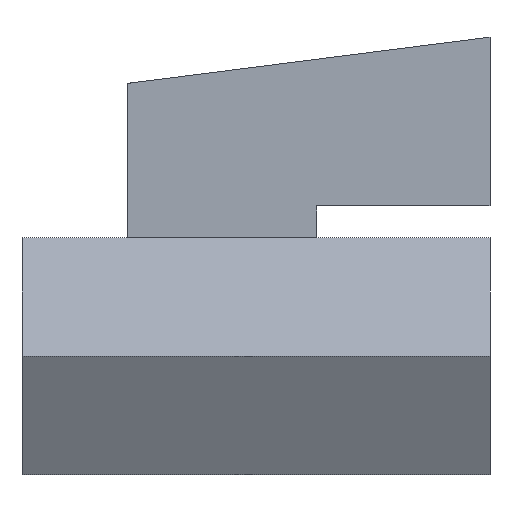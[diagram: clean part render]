
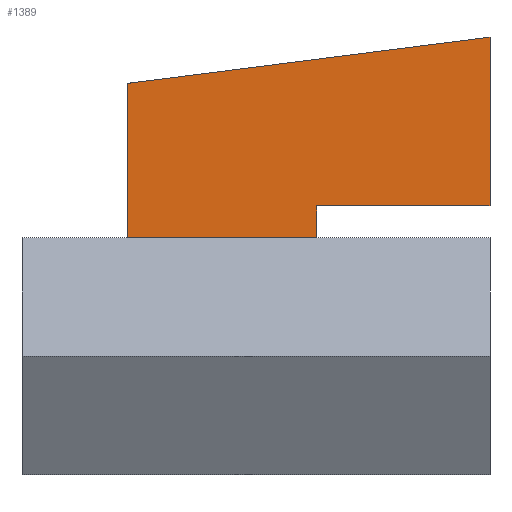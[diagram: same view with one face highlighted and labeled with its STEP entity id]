
A CAD part, front view. The second image highlights one B-rep face of the part: STEP entity #1389.
In plain terms, the highlighted planar face has unit normal (0, -1, 0).
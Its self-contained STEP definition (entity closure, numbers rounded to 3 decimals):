
#32 = PLANE('',#33);
#33 = AXIS2_PLACEMENT_3D('',#34,#35,#36);
#34 = CARTESIAN_POINT('',(0.,0.,0.39));
#35 = DIRECTION('',(0.,0.,1.));
#36 = DIRECTION('',(0.,1.,0.));
#143 = VERTEX_POINT('',#144);
#144 = CARTESIAN_POINT('',(-1.192,-0.153,0.39));
#158 = PLANE('',#159);
#159 = AXIS2_PLACEMENT_3D('',#160,#161,#162);
#160 = CARTESIAN_POINT('',(-1.192,0.153,0.644));
#161 = DIRECTION('',(-1.,0.,0.));
#162 = DIRECTION('',(0.,0.,-1.));
#199 = VERTEX_POINT('',#200);
#200 = CARTESIAN_POINT('',(-0.57,-0.153,0.39));
#214 = PLANE('',#215);
#215 = AXIS2_PLACEMENT_3D('',#216,#217,#218);
#216 = CARTESIAN_POINT('',(-0.57,0.153,0.443));
#217 = DIRECTION('',(1.,0.,0.));
#218 = DIRECTION('',(0.,0.,1.));
#226 = EDGE_CURVE('',#199,#143,#227,.T.);
#227 = SURFACE_CURVE('',#228,(#232,#239),.PCURVE_S1.);
#228 = LINE('',#229,#230);
#229 = CARTESIAN_POINT('',(-0.57,-0.153,0.39));
#230 = VECTOR('',#231,1.);
#231 = DIRECTION('',(-1.,0.,0.));
#232 = PCURVE('',#32,#233);
#233 = DEFINITIONAL_REPRESENTATION('',(#234),#238);
#234 = LINE('',#235,#236);
#235 = CARTESIAN_POINT('',(-0.153,0.57));
#236 = VECTOR('',#237,1.);
#237 = DIRECTION('',(0.,1.));
#238 = ( GEOMETRIC_REPRESENTATION_CONTEXT(2) 
PARAMETRIC_REPRESENTATION_CONTEXT() REPRESENTATION_CONTEXT('2D SPACE',''
  ) );
#239 = PCURVE('',#240,#245);
#240 = PLANE('',#241);
#241 = AXIS2_PLACEMENT_3D('',#242,#243,#244);
#242 = CARTESIAN_POINT('',(-0.587,-0.153,0.701));
#243 = DIRECTION('',(0.,1.,0.));
#244 = DIRECTION('',(0.,-0.,1.));
#245 = DEFINITIONAL_REPRESENTATION('',(#246),#250);
#246 = LINE('',#247,#248);
#247 = CARTESIAN_POINT('',(-0.311,0.017));
#248 = VECTOR('',#249,1.);
#249 = DIRECTION('',(0.,-1.));
#250 = ( GEOMETRIC_REPRESENTATION_CONTEXT(2) 
PARAMETRIC_REPRESENTATION_CONTEXT() REPRESENTATION_CONTEXT('2D SPACE',''
  ) );
#938 = PLANE('',#939);
#939 = AXIS2_PLACEMENT_3D('',#940,#941,#942);
#940 = CARTESIAN_POINT('',(-0.596,0.153,0.974));
#941 = DIRECTION('',(-0.126,0.,0.992));
#942 = DIRECTION('',(-0.992,0.,-0.126));
#1048 = EDGE_CURVE('',#1049,#1051,#1053,.T.);
#1049 = VERTEX_POINT('',#1050);
#1050 = CARTESIAN_POINT('',(0.,-0.153,0.495));
#1051 = VERTEX_POINT('',#1052);
#1052 = CARTESIAN_POINT('',(-0.57,-0.153,0.495));
#1053 = SURFACE_CURVE('',#1054,(#1058,#1070),.PCURVE_S1.);
#1054 = LINE('',#1055,#1056);
#1055 = CARTESIAN_POINT('',(0.,-0.153,0.495));
#1056 = VECTOR('',#1057,1.);
#1057 = DIRECTION('',(-1.,0.,0.));
#1058 = PCURVE('',#1059,#1064);
#1059 = PLANE('',#1060);
#1060 = AXIS2_PLACEMENT_3D('',#1061,#1062,#1063);
#1061 = CARTESIAN_POINT('',(-0.285,0.153,0.495));
#1062 = DIRECTION('',(0.,0.,-1.));
#1063 = DIRECTION('',(1.,0.,0.));
#1064 = DEFINITIONAL_REPRESENTATION('',(#1065),#1069);
#1065 = LINE('',#1066,#1067);
#1066 = CARTESIAN_POINT('',(0.285,0.305));
#1067 = VECTOR('',#1068,1.);
#1068 = DIRECTION('',(-1.,0.));
#1069 = ( GEOMETRIC_REPRESENTATION_CONTEXT(2) 
PARAMETRIC_REPRESENTATION_CONTEXT() REPRESENTATION_CONTEXT('2D SPACE',''
  ) );
#1070 = PCURVE('',#240,#1071);
#1071 = DEFINITIONAL_REPRESENTATION('',(#1072),#1076);
#1072 = LINE('',#1073,#1074);
#1073 = CARTESIAN_POINT('',(-0.206,0.587));
#1074 = VECTOR('',#1075,1.);
#1075 = DIRECTION('',(0.,-1.));
#1076 = ( GEOMETRIC_REPRESENTATION_CONTEXT(2) 
PARAMETRIC_REPRESENTATION_CONTEXT() REPRESENTATION_CONTEXT('2D SPACE',''
  ) );
#1138 = PLANE('',#1139);
#1139 = AXIS2_PLACEMENT_3D('',#1140,#1141,#1142);
#1140 = CARTESIAN_POINT('',(0.,0.153,0.773));
#1141 = DIRECTION('',(1.,0.,0.));
#1142 = DIRECTION('',(0.,0.,1.));
#1153 = EDGE_CURVE('',#1051,#199,#1154,.T.);
#1154 = SURFACE_CURVE('',#1155,(#1159,#1166),.PCURVE_S1.);
#1155 = LINE('',#1156,#1157);
#1156 = CARTESIAN_POINT('',(-0.57,-0.153,0.495));
#1157 = VECTOR('',#1158,1.);
#1158 = DIRECTION('',(0.,0.,-1.));
#1159 = PCURVE('',#214,#1160);
#1160 = DEFINITIONAL_REPRESENTATION('',(#1161),#1165);
#1161 = LINE('',#1162,#1163);
#1162 = CARTESIAN_POINT('',(0.053,0.305));
#1163 = VECTOR('',#1164,1.);
#1164 = DIRECTION('',(-1.,0.));
#1165 = ( GEOMETRIC_REPRESENTATION_CONTEXT(2) 
PARAMETRIC_REPRESENTATION_CONTEXT() REPRESENTATION_CONTEXT('2D SPACE',''
  ) );
#1166 = PCURVE('',#240,#1167);
#1167 = DEFINITIONAL_REPRESENTATION('',(#1168),#1172);
#1168 = LINE('',#1169,#1170);
#1169 = CARTESIAN_POINT('',(-0.206,0.017));
#1170 = VECTOR('',#1171,1.);
#1171 = DIRECTION('',(-1.,0.));
#1172 = ( GEOMETRIC_REPRESENTATION_CONTEXT(2) 
PARAMETRIC_REPRESENTATION_CONTEXT() REPRESENTATION_CONTEXT('2D SPACE',''
  ) );
#1200 = EDGE_CURVE('',#143,#1201,#1203,.T.);
#1201 = VERTEX_POINT('',#1202);
#1202 = CARTESIAN_POINT('',(-1.192,-0.153,0.898));
#1203 = SURFACE_CURVE('',#1204,(#1208,#1215),.PCURVE_S1.);
#1204 = LINE('',#1205,#1206);
#1205 = CARTESIAN_POINT('',(-1.192,-0.153,0.39));
#1206 = VECTOR('',#1207,1.);
#1207 = DIRECTION('',(0.,0.,1.));
#1208 = PCURVE('',#158,#1209);
#1209 = DEFINITIONAL_REPRESENTATION('',(#1210),#1214);
#1210 = LINE('',#1211,#1212);
#1211 = CARTESIAN_POINT('',(0.254,0.305));
#1212 = VECTOR('',#1213,1.);
#1213 = DIRECTION('',(-1.,-0.));
#1214 = ( GEOMETRIC_REPRESENTATION_CONTEXT(2) 
PARAMETRIC_REPRESENTATION_CONTEXT() REPRESENTATION_CONTEXT('2D SPACE',''
  ) );
#1215 = PCURVE('',#240,#1216);
#1216 = DEFINITIONAL_REPRESENTATION('',(#1217),#1221);
#1217 = LINE('',#1218,#1219);
#1218 = CARTESIAN_POINT('',(-0.311,-0.605));
#1219 = VECTOR('',#1220,1.);
#1220 = DIRECTION('',(1.,0.));
#1221 = ( GEOMETRIC_REPRESENTATION_CONTEXT(2) 
PARAMETRIC_REPRESENTATION_CONTEXT() REPRESENTATION_CONTEXT('2D SPACE',''
  ) );
#1275 = EDGE_CURVE('',#1201,#1276,#1278,.T.);
#1276 = VERTEX_POINT('',#1277);
#1277 = CARTESIAN_POINT('',(0.,-0.153,1.05));
#1278 = SURFACE_CURVE('',#1279,(#1283,#1290),.PCURVE_S1.);
#1279 = LINE('',#1280,#1281);
#1280 = CARTESIAN_POINT('',(-1.192,-0.153,0.898));
#1281 = VECTOR('',#1282,1.);
#1282 = DIRECTION('',(0.992,0.,0.126));
#1283 = PCURVE('',#938,#1284);
#1284 = DEFINITIONAL_REPRESENTATION('',(#1285),#1289);
#1285 = LINE('',#1286,#1287);
#1286 = CARTESIAN_POINT('',(0.601,0.305));
#1287 = VECTOR('',#1288,1.);
#1288 = DIRECTION('',(-1.,0.));
#1289 = ( GEOMETRIC_REPRESENTATION_CONTEXT(2) 
PARAMETRIC_REPRESENTATION_CONTEXT() REPRESENTATION_CONTEXT('2D SPACE',''
  ) );
#1290 = PCURVE('',#240,#1291);
#1291 = DEFINITIONAL_REPRESENTATION('',(#1292),#1296);
#1292 = LINE('',#1293,#1294);
#1293 = CARTESIAN_POINT('',(0.197,-0.605));
#1294 = VECTOR('',#1295,1.);
#1295 = DIRECTION('',(0.126,0.992));
#1296 = ( GEOMETRIC_REPRESENTATION_CONTEXT(2) 
PARAMETRIC_REPRESENTATION_CONTEXT() REPRESENTATION_CONTEXT('2D SPACE',''
  ) );
#1346 = EDGE_CURVE('',#1276,#1049,#1347,.T.);
#1347 = SURFACE_CURVE('',#1348,(#1352,#1359),.PCURVE_S1.);
#1348 = LINE('',#1349,#1350);
#1349 = CARTESIAN_POINT('',(0.,-0.153,1.05));
#1350 = VECTOR('',#1351,1.);
#1351 = DIRECTION('',(0.,0.,-1.));
#1352 = PCURVE('',#1138,#1353);
#1353 = DEFINITIONAL_REPRESENTATION('',(#1354),#1358);
#1354 = LINE('',#1355,#1356);
#1355 = CARTESIAN_POINT('',(0.278,0.305));
#1356 = VECTOR('',#1357,1.);
#1357 = DIRECTION('',(-1.,0.));
#1358 = ( GEOMETRIC_REPRESENTATION_CONTEXT(2) 
PARAMETRIC_REPRESENTATION_CONTEXT() REPRESENTATION_CONTEXT('2D SPACE',''
  ) );
#1359 = PCURVE('',#240,#1360);
#1360 = DEFINITIONAL_REPRESENTATION('',(#1361),#1365);
#1361 = LINE('',#1362,#1363);
#1362 = CARTESIAN_POINT('',(0.349,0.587));
#1363 = VECTOR('',#1364,1.);
#1364 = DIRECTION('',(-1.,0.));
#1365 = ( GEOMETRIC_REPRESENTATION_CONTEXT(2) 
PARAMETRIC_REPRESENTATION_CONTEXT() REPRESENTATION_CONTEXT('2D SPACE',''
  ) );
#1389 = ADVANCED_FACE('',(#1390),#240,.F.);
#1390 = FACE_BOUND('',#1391,.T.);
#1391 = EDGE_LOOP('',(#1392,#1393,#1394,#1395,#1396,#1397));
#1392 = ORIENTED_EDGE('',*,*,#1048,.F.);
#1393 = ORIENTED_EDGE('',*,*,#1346,.F.);
#1394 = ORIENTED_EDGE('',*,*,#1275,.F.);
#1395 = ORIENTED_EDGE('',*,*,#1200,.F.);
#1396 = ORIENTED_EDGE('',*,*,#226,.F.);
#1397 = ORIENTED_EDGE('',*,*,#1153,.F.);
